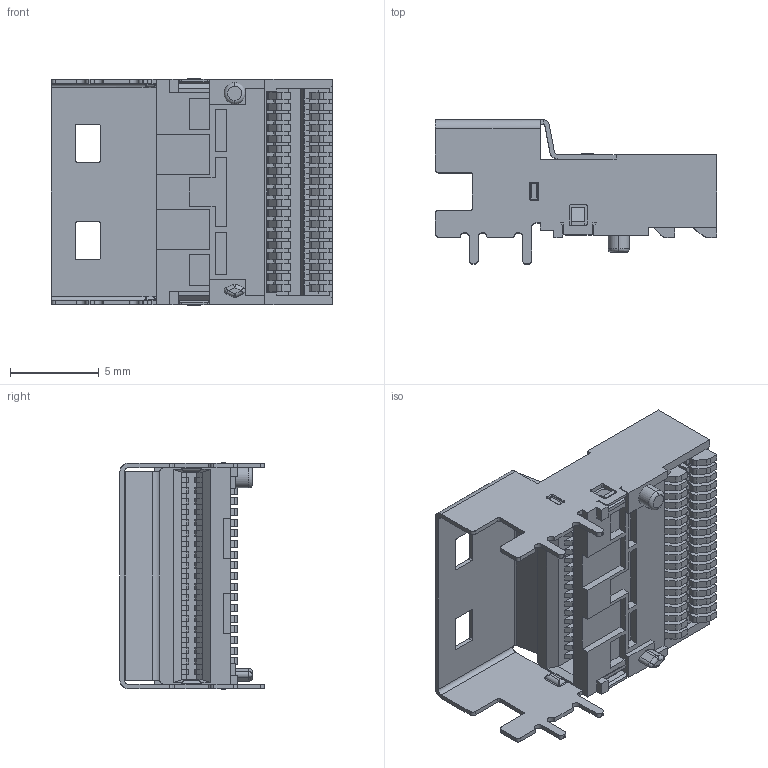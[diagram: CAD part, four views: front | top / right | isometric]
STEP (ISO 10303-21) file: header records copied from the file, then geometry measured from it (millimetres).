
FILE_DESCRIPTION((''),'2;1');
FILE_NAME('PSL060-3843-B01-1H-CUSTOMER','2026-07-11T11:51:09',('31000862'),(''),'CREO PARAMETRIC BY PTC INC, 2022244','CREO PARAMETRIC BY PTC INC, 2022244','');
FILE_SCHEMA(('AUTOMOTIVE_DESIGN { 1 0 10303 214 1 1 1 1 }'));
Length unit declared in the file: millimetre
Products named in the file (1): PSL060-3843-B01-1H-CUSTOMER
Bounding box: 15.8 x 8.1 x 12.76 mm (x, y, z)
Volume: 421 mm3; surface area: 1285.6 mm2
Topology: 1 solids, 1 shells, 1123 faces, 3105 edges, 1986 vertices
Faces by surface type: plane 821, cylinder 264, bspline 20, torus 10, sphere 8
Entity records: 37107 total; most frequent: CARTESIAN_POINT 7545, ORIENTED_EDGE 6194, DIRECTION 5762, EDGE_CURVE 3097, VECTOR 2528, LINE 2528, VERTEX_POINT 1986, AXIS2_PLACEMENT_3D 1617
